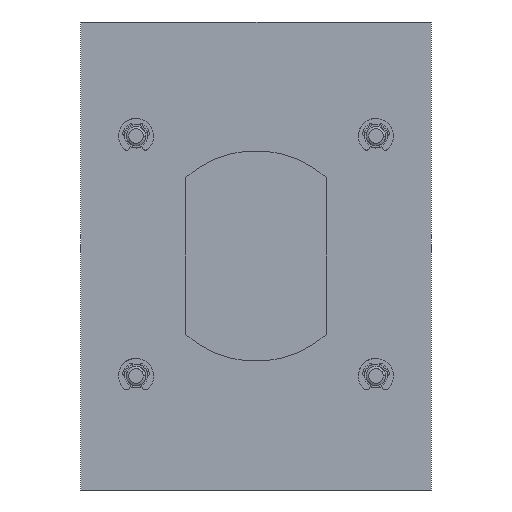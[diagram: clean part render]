
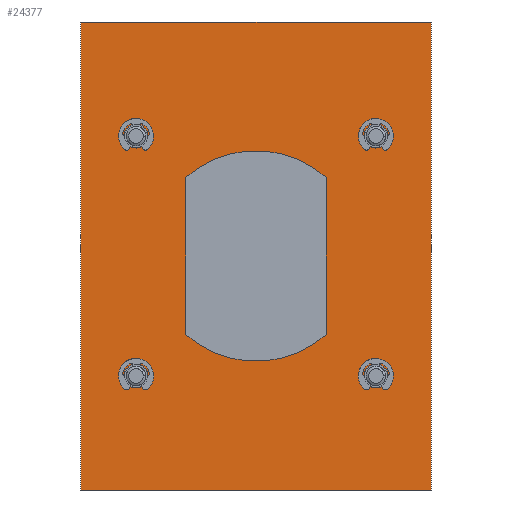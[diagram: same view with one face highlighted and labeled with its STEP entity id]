
A CAD part, front view. The second image highlights one B-rep face of the part: STEP entity #24377.
In plain terms, the highlighted planar face has unit normal (0, -1, 0).
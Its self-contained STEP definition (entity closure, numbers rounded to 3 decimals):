
#22=DIRECTION('',(1.,0.,0.));
#23=VECTOR('',#22,60.);
#24=CARTESIAN_POINT('',(1615.785,190.09,-10.));
#25=LINE('',#24,#23);
#2244=CARTESIAN_POINT('',(1645.785,190.09,30.));
#2245=DIRECTION('',(0.,1.,0.));
#2246=DIRECTION('',(0.667,0.,-0.745));
#2247=AXIS2_PLACEMENT_3D('',#2244,#2245,#2246);
#2249=DIRECTION('',(0.,0.,-1.));
#2250=VECTOR('',#2249,26.833);
#2251=CARTESIAN_POINT('',(1657.785,190.09,43.416));
#2252=LINE('',#2251,#2250);
#2253=CARTESIAN_POINT('',(1645.785,190.09,30.));
#2254=DIRECTION('',(0.,1.,0.));
#2255=DIRECTION('',(-0.667,0.,0.745));
#2256=AXIS2_PLACEMENT_3D('',#2253,#2254,#2255);
#2258=DIRECTION('',(0.,0.,1.));
#2259=VECTOR('',#2258,26.833);
#2260=CARTESIAN_POINT('',(1633.785,190.09,16.584));
#2261=LINE('',#2260,#2259);
#2275=CARTESIAN_POINT('',(1625.285,190.09,50.5));
#2276=DIRECTION('',(0.,-1.,0.));
#2277=DIRECTION('',(1.,0.,0.));
#2278=AXIS2_PLACEMENT_3D('',#2275,#2276,#2277);
#2293=CARTESIAN_POINT('',(1625.285,190.09,50.5));
#2294=DIRECTION('',(0.,-1.,0.));
#2295=DIRECTION('',(-1.,0.,0.));
#2296=AXIS2_PLACEMENT_3D('',#2293,#2294,#2295);
#2351=CARTESIAN_POINT('',(1666.285,190.09,50.5));
#2352=DIRECTION('',(0.,-1.,0.));
#2353=DIRECTION('',(1.,0.,0.));
#2354=AXIS2_PLACEMENT_3D('',#2351,#2352,#2353);
#2369=CARTESIAN_POINT('',(1666.285,190.09,50.5));
#2370=DIRECTION('',(0.,-1.,0.));
#2371=DIRECTION('',(-1.,0.,0.));
#2372=AXIS2_PLACEMENT_3D('',#2369,#2370,#2371);
#2387=CARTESIAN_POINT('',(1625.285,190.09,9.5));
#2388=DIRECTION('',(0.,-1.,0.));
#2389=DIRECTION('',(1.,0.,0.));
#2390=AXIS2_PLACEMENT_3D('',#2387,#2388,#2389);
#2405=CARTESIAN_POINT('',(1625.285,190.09,9.5));
#2406=DIRECTION('',(0.,-1.,0.));
#2407=DIRECTION('',(-1.,0.,0.));
#2408=AXIS2_PLACEMENT_3D('',#2405,#2406,#2407);
#2423=CARTESIAN_POINT('',(1666.285,190.09,9.5));
#2424=DIRECTION('',(0.,-1.,0.));
#2425=DIRECTION('',(1.,0.,0.));
#2426=AXIS2_PLACEMENT_3D('',#2423,#2424,#2425);
#2441=CARTESIAN_POINT('',(1666.285,190.09,9.5));
#2442=DIRECTION('',(0.,-1.,0.));
#2443=DIRECTION('',(-1.,0.,0.));
#2444=AXIS2_PLACEMENT_3D('',#2441,#2442,#2443);
#3579=DIRECTION('',(1.,0.,0.));
#3580=VECTOR('',#3579,60.);
#3581=CARTESIAN_POINT('',(1615.785,190.09,70.));
#3582=LINE('',#3581,#3580);
#6045=DIRECTION('',(0.,0.,-1.));
#6046=VECTOR('',#6045,80.);
#6047=CARTESIAN_POINT('',(1615.785,190.09,70.));
#6048=LINE('',#6047,#6046);
#16835=DIRECTION('',(0.,0.,1.));
#16836=VECTOR('',#16835,80.);
#16837=CARTESIAN_POINT('',(1675.785,190.09,-10.));
#16838=LINE('',#16837,#16836);
#22786=CARTESIAN_POINT('',(1627.335,190.09,50.5));
#22787=CARTESIAN_POINT('',(1623.235,190.09,50.5));
#22788=VERTEX_POINT('',#22786);
#22789=VERTEX_POINT('',#22787);
#22790=CARTESIAN_POINT('',(1615.785,190.09,70.));
#22791=CARTESIAN_POINT('',(1615.785,190.09,-10.));
#22792=VERTEX_POINT('',#22790);
#22793=VERTEX_POINT('',#22791);
#22794=CARTESIAN_POINT('',(1675.785,190.09,-10.));
#22795=CARTESIAN_POINT('',(1675.785,190.09,70.));
#22796=VERTEX_POINT('',#22794);
#22797=VERTEX_POINT('',#22795);
#22798=CARTESIAN_POINT('',(1668.335,190.09,50.5));
#22799=CARTESIAN_POINT('',(1664.235,190.09,50.5));
#22800=VERTEX_POINT('',#22798);
#22801=VERTEX_POINT('',#22799);
#22802=CARTESIAN_POINT('',(1627.335,190.09,9.5));
#22803=CARTESIAN_POINT('',(1623.235,190.09,9.5));
#22804=VERTEX_POINT('',#22802);
#22805=VERTEX_POINT('',#22803);
#22806=CARTESIAN_POINT('',(1668.335,190.09,9.5));
#22807=CARTESIAN_POINT('',(1664.235,190.09,9.5));
#22808=VERTEX_POINT('',#22806);
#22809=VERTEX_POINT('',#22807);
#22818=CARTESIAN_POINT('',(1633.785,190.09,16.584));
#22819=VERTEX_POINT('',#22818);
#22820=CARTESIAN_POINT('',(1657.785,190.09,16.584));
#22821=VERTEX_POINT('',#22820);
#22822=CARTESIAN_POINT('',(1633.785,190.09,43.416));
#22823=VERTEX_POINT('',#22822);
#22824=CARTESIAN_POINT('',(1657.785,190.09,43.416));
#22825=VERTEX_POINT('',#22824);
#24329=CARTESIAN_POINT('',(0.,190.09,70.));
#24330=DIRECTION('',(0.,-1.,0.));
#24331=DIRECTION('',(1.,0.,0.));
#24332=AXIS2_PLACEMENT_3D('',#24329,#24330,#24331);
#24333=PLANE('',#24332);
#24335=ORIENTED_EDGE('',*,*,#24334,.F.);
#24337=ORIENTED_EDGE('',*,*,#24336,.T.);
#24339=ORIENTED_EDGE('',*,*,#24338,.F.);
#24340=ORIENTED_EDGE('',*,*,#22959,.F.);
#24341=EDGE_LOOP('',(#24335,#24337,#24339,#24340));
#24342=FACE_OUTER_BOUND('',#24341,.F.);
#24344=ORIENTED_EDGE('',*,*,#24343,.T.);
#24346=ORIENTED_EDGE('',*,*,#24345,.T.);
#24347=EDGE_LOOP('',(#24344,#24346));
#24348=FACE_BOUND('',#24347,.F.);
#24350=ORIENTED_EDGE('',*,*,#24349,.T.);
#24352=ORIENTED_EDGE('',*,*,#24351,.T.);
#24353=EDGE_LOOP('',(#24350,#24352));
#24354=FACE_BOUND('',#24353,.F.);
#24356=ORIENTED_EDGE('',*,*,#24355,.T.);
#24358=ORIENTED_EDGE('',*,*,#24357,.T.);
#24359=EDGE_LOOP('',(#24356,#24358));
#24360=FACE_BOUND('',#24359,.F.);
#24362=ORIENTED_EDGE('',*,*,#24361,.T.);
#24364=ORIENTED_EDGE('',*,*,#24363,.T.);
#24365=EDGE_LOOP('',(#24362,#24364));
#24366=FACE_BOUND('',#24365,.F.);
#24368=ORIENTED_EDGE('',*,*,#24367,.F.);
#24370=ORIENTED_EDGE('',*,*,#24369,.F.);
#24372=ORIENTED_EDGE('',*,*,#24371,.F.);
#24374=ORIENTED_EDGE('',*,*,#24373,.F.);
#24375=EDGE_LOOP('',(#24368,#24370,#24372,#24374));
#24376=FACE_BOUND('',#24375,.F.);
#24377=ADVANCED_FACE('',(#24342,#24348,#24354,#24360,#24366,#24376),#24333,.T.);
#2248=CIRCLE('',#2247,18.);
#2257=CIRCLE('',#2256,18.);
#2279=CIRCLE('',#2278,2.05);
#2297=CIRCLE('',#2296,2.05);
#2355=CIRCLE('',#2354,2.05);
#2373=CIRCLE('',#2372,2.05);
#2391=CIRCLE('',#2390,2.05);
#2409=CIRCLE('',#2408,2.05);
#2427=CIRCLE('',#2426,2.05);
#2445=CIRCLE('',#2444,2.05);
#22959=EDGE_CURVE('',#22793,#22796,#25,.T.);
#24334=EDGE_CURVE('',#22792,#22793,#6048,.T.);
#24336=EDGE_CURVE('',#22792,#22797,#3582,.T.);
#24338=EDGE_CURVE('',#22796,#22797,#16838,.T.);
#24343=EDGE_CURVE('',#22788,#22789,#2279,.T.);
#24345=EDGE_CURVE('',#22789,#22788,#2297,.T.);
#24349=EDGE_CURVE('',#22800,#22801,#2355,.T.);
#24351=EDGE_CURVE('',#22801,#22800,#2373,.T.);
#24355=EDGE_CURVE('',#22804,#22805,#2391,.T.);
#24357=EDGE_CURVE('',#22805,#22804,#2409,.T.);
#24361=EDGE_CURVE('',#22808,#22809,#2427,.T.);
#24363=EDGE_CURVE('',#22809,#22808,#2445,.T.);
#24367=EDGE_CURVE('',#22821,#22819,#2248,.T.);
#24369=EDGE_CURVE('',#22825,#22821,#2252,.T.);
#24371=EDGE_CURVE('',#22823,#22825,#2257,.T.);
#24373=EDGE_CURVE('',#22819,#22823,#2261,.T.);
